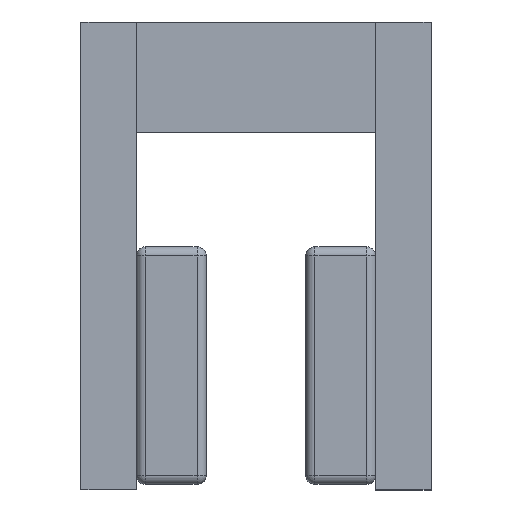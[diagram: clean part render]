
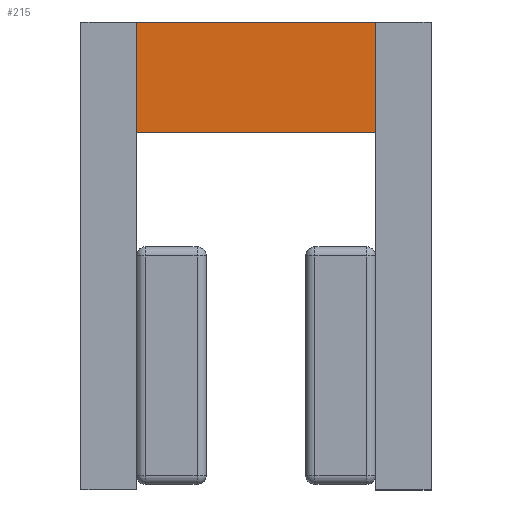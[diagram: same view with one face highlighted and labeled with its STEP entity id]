
A CAD part, left-side view. The second image highlights one B-rep face of the part: STEP entity #215.
In plain terms, the highlighted planar face has unit normal (-1, 0, 0).
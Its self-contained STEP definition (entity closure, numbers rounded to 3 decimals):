
#109 = VECTOR ( 'NONE', #10712, 1000. ) ;
#215 = ADVANCED_FACE ( 'NONE', ( #19846 ), #2494, .F. ) ;
#285 = EDGE_CURVE ( 'NONE', #14218, #6554, #1088, .T. ) ;
#332 = LINE ( 'NONE', #19820, #2996 ) ;
#374 = VECTOR ( 'NONE', #9224, 1000. ) ;
#1088 = LINE ( 'NONE', #12149, #374 ) ;
#1310 = CARTESIAN_POINT ( 'NONE',  ( -67.859, 21.425, 3. ) ) ;
#1635 = EDGE_CURVE ( 'NONE', #11313, #14218, #332, .T. ) ;
#1940 = DIRECTION ( 'NONE',  ( 0., -1., 0. ) ) ;
#2395 = CARTESIAN_POINT ( 'NONE',  ( -67.859, 8.425, 3. ) ) ;
#2494 = PLANE ( 'NONE',  #17314 ) ;
#2623 = DIRECTION ( 'NONE',  ( 1., 0., 0. ) ) ;
#2996 = VECTOR ( 'NONE', #18250, 1000. ) ;
#4162 = DIRECTION ( 'NONE',  ( 0., 0., -1. ) ) ;
#5396 = ORIENTED_EDGE ( 'NONE', *, *, #19474, .T. ) ;
#5510 = CARTESIAN_POINT ( 'NONE',  ( -67.859, 8.425, -3. ) ) ;
#6203 = ORIENTED_EDGE ( 'NONE', *, *, #285, .F. ) ;
#6548 = EDGE_LOOP ( 'NONE', ( #5396, #6203, #15713, #15277 ) ) ;
#6554 = VERTEX_POINT ( 'NONE', #5510 ) ;
#7042 = VERTEX_POINT ( 'NONE', #14470 ) ;
#7369 = VECTOR ( 'NONE', #1940, 1000. ) ;
#7402 = CARTESIAN_POINT ( 'NONE',  ( -67.859, 21.425, 3. ) ) ;
#8334 = LINE ( 'NONE', #1310, #109 ) ;
#9224 = DIRECTION ( 'NONE',  ( 0., 0., -1. ) ) ;
#9549 = CARTESIAN_POINT ( 'NONE',  ( -67.859, 21.425, 3. ) ) ;
#9646 = EDGE_CURVE ( 'NONE', #11313, #7042, #8334, .T. ) ;
#10712 = DIRECTION ( 'NONE',  ( 0., 0., -1. ) ) ;
#11313 = VERTEX_POINT ( 'NONE', #9549 ) ;
#12149 = CARTESIAN_POINT ( 'NONE',  ( -67.859, 8.425, 3. ) ) ;
#14218 = VERTEX_POINT ( 'NONE', #2395 ) ;
#14298 = CARTESIAN_POINT ( 'NONE',  ( -67.859, 21.425, -3. ) ) ;
#14470 = CARTESIAN_POINT ( 'NONE',  ( -67.859, 21.425, -3. ) ) ;
#15277 = ORIENTED_EDGE ( 'NONE', *, *, #9646, .T. ) ;
#15713 = ORIENTED_EDGE ( 'NONE', *, *, #1635, .F. ) ;
#17314 = AXIS2_PLACEMENT_3D ( 'NONE', #7402, #2623, #4162 ) ;
#17679 = LINE ( 'NONE', #14298, #7369 ) ;
#18250 = DIRECTION ( 'NONE',  ( 0., -1., 0. ) ) ;
#19474 = EDGE_CURVE ( 'NONE', #7042, #6554, #17679, .T. ) ;
#19820 = CARTESIAN_POINT ( 'NONE',  ( -67.859, 21.425, 3. ) ) ;
#19846 = FACE_OUTER_BOUND ( 'NONE', #6548, .T. ) ;
